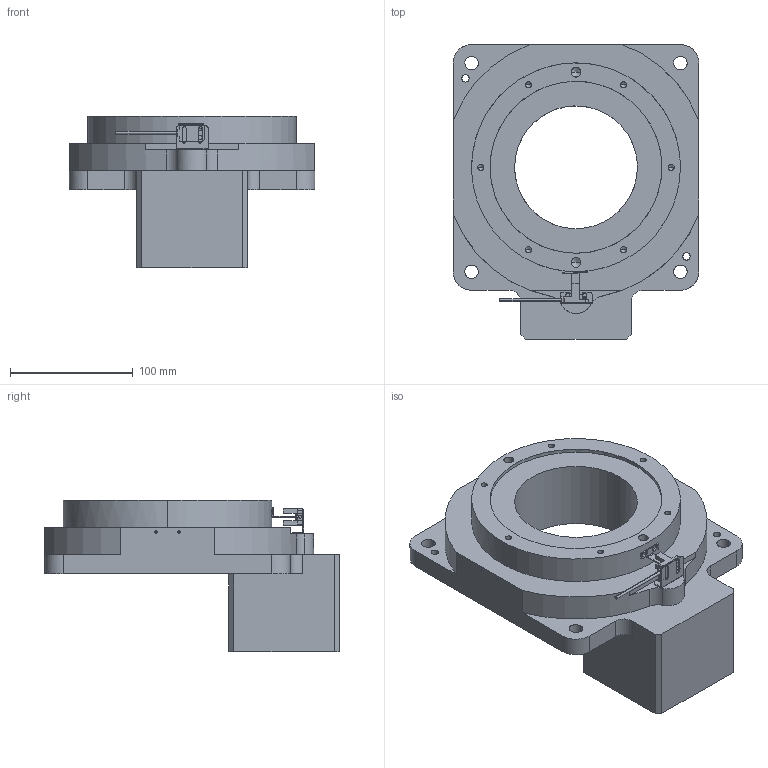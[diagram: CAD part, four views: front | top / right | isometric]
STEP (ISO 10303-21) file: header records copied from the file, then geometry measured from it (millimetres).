
FILE_DESCRIPTION (( 'STEP AP214' ), '1' );
FILE_NAME ('GT200-C-10-19-70-90-M6.STEP', '2024-07-04T04:59:08', ( '' ), ( '' ), 'SwSTEP 2.0', 'SolidWorks 2021', '' );
FILE_SCHEMA (( 'AUTOMOTIVE_DESIGN' ));
Length unit declared in the file: millimetre
Products named in the file (1): GT200-C-10-19-70-90-M6
Bounding box: 200 x 240 x 123.5 mm (x, y, z)
Volume: 1896076.4 mm3; surface area: 167902.5 mm2
Topology: 6 solids, 6 shells, 772 faces, 2096 edges, 1361 vertices
Faces by surface type: plane 549, bspline 223
Entity records: 27625 total; most frequent: CARTESIAN_POINT 7969, ORIENTED_EDGE 4108, DIRECTION 2311, EDGE_CURVE 2054, VERTEX_POINT 1361, VECTOR 1211, LINE 1211, EDGE_LOOP 869
